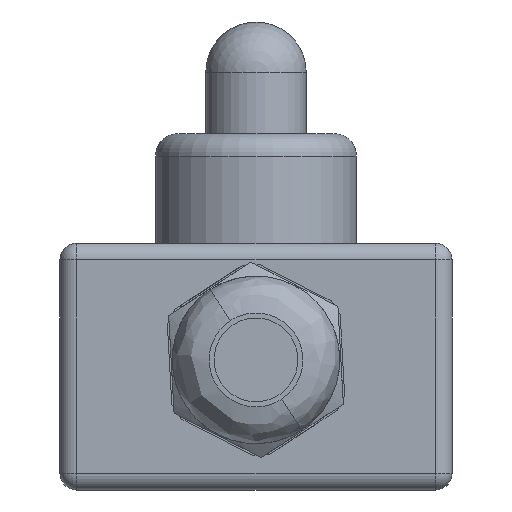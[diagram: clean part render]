
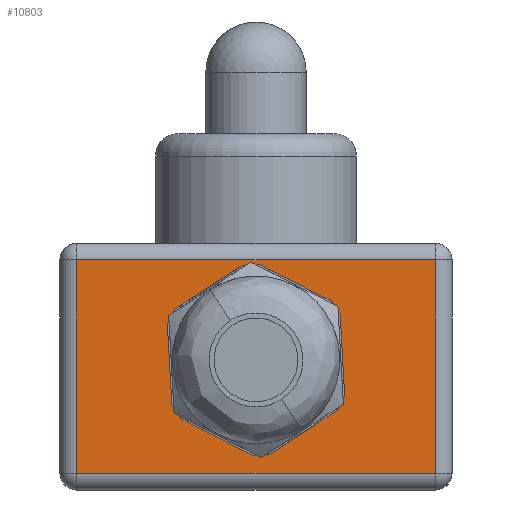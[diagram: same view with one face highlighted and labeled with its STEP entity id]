
A CAD part, front view. The second image highlights one B-rep face of the part: STEP entity #10803.
In plain terms, the highlighted planar face has unit normal (0, -1, 0).
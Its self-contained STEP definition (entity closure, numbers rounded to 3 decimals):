
#200 = LINE ( 'NONE', #10665, #9514 ) ;
#290 = VECTOR ( 'NONE', #5927, 1000. ) ;
#327 = VERTEX_POINT ( 'NONE', #5077 ) ;
#368 = LINE ( 'NONE', #441, #927 ) ;
#378 = CARTESIAN_POINT ( 'NONE',  ( -1.218, -35., 20.112 ) ) ;
#441 = CARTESIAN_POINT ( 'NONE',  ( 7.539, -35., 15.68 ) ) ;
#667 = EDGE_CURVE ( 'NONE', #2620, #12312, #2861, .T. ) ;
#927 = VECTOR ( 'NONE', #11972, 1000. ) ;
#951 = LINE ( 'NONE', #11417, #2487 ) ;
#1148 = ORIENTED_EDGE ( 'NONE', *, *, #14755, .T. ) ;
#1209 = EDGE_CURVE ( 'NONE', #7773, #11601, #1276, .T. ) ;
#1262 = VERTEX_POINT ( 'NONE', #3840 ) ;
#1276 = LINE ( 'NONE', #5906, #3349 ) ;
#1377 = ORIENTED_EDGE ( 'NONE', *, *, #10846, .T. ) ;
#1451 = CARTESIAN_POINT ( 'NONE',  ( 7.937, -35., 8.474 ) ) ;
#1549 = VECTOR ( 'NONE', #11899, 1000. ) ;
#1613 = CARTESIAN_POINT ( 'NONE',  ( -1.218, -35., 20.112 ) ) ;
#1619 = EDGE_CURVE ( 'NONE', #5683, #8008, #9735, .T. ) ;
#1710 = ORIENTED_EDGE ( 'NONE', *, *, #667, .T. ) ;
#1786 = VERTEX_POINT ( 'NONE', #14746 ) ;
#1997 = DIRECTION ( 'NONE',  ( -0.547, 0., 0.837 ) ) ;
#2173 = CARTESIAN_POINT ( 'NONE',  ( 16.05, -35., 20.6 ) ) ;
#2183 = EDGE_LOOP ( 'NONE', ( #11524, #13534, #12564, #14885, #5599, #8513, #4930, #9434, #1148, #13988, #1710, #2334 ) ) ;
#2206 = LINE ( 'NONE', #5403, #12349 ) ;
#2276 = VERTEX_POINT ( 'NONE', #9184 ) ;
#2334 = ORIENTED_EDGE ( 'NONE', *, *, #12265, .T. ) ;
#2354 = DIRECTION ( 'NONE',  ( 1., 0., 0. ) ) ;
#2487 = VECTOR ( 'NONE', #14758, 1000. ) ;
#2620 = VERTEX_POINT ( 'NONE', #6946 ) ;
#2803 = CARTESIAN_POINT ( 'NONE',  ( 1.218, -35., 3.188 ) ) ;
#2861 = LINE ( 'NONE', #9840, #1549 ) ;
#2948 = EDGE_CURVE ( 'NONE', #2276, #2620, #2996, .T. ) ;
#2996 = LINE ( 'NONE', #14527, #12454 ) ;
#3239 = CARTESIAN_POINT ( 'NONE',  ( -4.239, -35., 18.138 ) ) ;
#3349 = VECTOR ( 'NONE', #10531, 1000. ) ;
#3404 = CARTESIAN_POINT ( 'NONE',  ( 4.239, -35., 5.162 ) ) ;
#3469 = VECTOR ( 'NONE', #6661, 1000. ) ;
#3480 = DIRECTION ( 'NONE',  ( 0., 0., 1. ) ) ;
#3834 = DIRECTION ( 'NONE',  ( 0., 0., -1. ) ) ;
#3840 = CARTESIAN_POINT ( 'NONE',  ( 7.937, -35., 8.474 ) ) ;
#3912 = EDGE_CURVE ( 'NONE', #9947, #1786, #200, .T. ) ;
#4196 = EDGE_CURVE ( 'NONE', #6935, #7773, #951, .T. ) ;
#4341 = DIRECTION ( 'NONE',  ( 0.892, 0., -0.452 ) ) ;
#4541 = VECTOR ( 'NONE', #11976, 1000. ) ;
#4598 = EDGE_CURVE ( 'NONE', #13068, #1262, #368, .T. ) ;
#4930 = ORIENTED_EDGE ( 'NONE', *, *, #4196, .T. ) ;
#5077 = CARTESIAN_POINT ( 'NONE',  ( 6.719, -35., 16.936 ) ) ;
#5342 = EDGE_LOOP ( 'NONE', ( #6685, #11030, #6952, #1377 ) ) ;
#5403 = CARTESIAN_POINT ( 'NONE',  ( 0.28, -35., 20.194 ) ) ;
#5518 = FACE_OUTER_BOUND ( 'NONE', #5342, .T. ) ;
#5599 = ORIENTED_EDGE ( 'NONE', *, *, #8471, .T. ) ;
#5683 = VERTEX_POINT ( 'NONE', #7939 ) ;
#5802 = CARTESIAN_POINT ( 'NONE',  ( -6.719, -35., 6.364 ) ) ;
#5852 = CARTESIAN_POINT ( 'NONE',  ( -17.55, -35., 1.5 ) ) ;
#5906 = CARTESIAN_POINT ( 'NONE',  ( -0.28, -35., 3.106 ) ) ;
#5927 = DIRECTION ( 'NONE',  ( 0.998, 0., 0.055 ) ) ;
#6099 = DIRECTION ( 'NONE',  ( 0., 0., 1. ) ) ;
#6352 = LINE ( 'NONE', #9692, #4541 ) ;
#6356 = AXIS2_PLACEMENT_3D ( 'NONE', #11593, #13871, #3480 ) ;
#6661 = DIRECTION ( 'NONE',  ( -0.837, 0., -0.547 ) ) ;
#6685 = ORIENTED_EDGE ( 'NONE', *, *, #3912, .T. ) ;
#6719 = EDGE_CURVE ( 'NONE', #6915, #327, #2206, .T. ) ;
#6915 = VERTEX_POINT ( 'NONE', #12768 ) ;
#6935 = VERTEX_POINT ( 'NONE', #2803 ) ;
#6937 = LINE ( 'NONE', #5802, #14580 ) ;
#6946 = CARTESIAN_POINT ( 'NONE',  ( -7.937, -35., 14.826 ) ) ;
#6952 = ORIENTED_EDGE ( 'NONE', *, *, #1619, .T. ) ;
#7085 = VECTOR ( 'NONE', #10290, 1000. ) ;
#7338 = CARTESIAN_POINT ( 'NONE',  ( 7.539, -35., 15.68 ) ) ;
#7580 = VECTOR ( 'NONE', #2354, 1000. ) ;
#7773 = VERTEX_POINT ( 'NONE', #14286 ) ;
#7939 = CARTESIAN_POINT ( 'NONE',  ( 16.05, -35., 1.5 ) ) ;
#8008 = VERTEX_POINT ( 'NONE', #2173 ) ;
#8057 = LINE ( 'NONE', #5852, #7580 ) ;
#8436 = LINE ( 'NONE', #1451, #12286 ) ;
#8471 = EDGE_CURVE ( 'NONE', #1262, #9796, #8436, .T. ) ;
#8513 = ORIENTED_EDGE ( 'NONE', *, *, #10668, .T. ) ;
#9080 = EDGE_CURVE ( 'NONE', #327, #13068, #6352, .T. ) ;
#9184 = CARTESIAN_POINT ( 'NONE',  ( -7.539, -35., 7.62 ) ) ;
#9241 = FACE_BOUND ( 'NONE', #2183, .T. ) ;
#9434 = ORIENTED_EDGE ( 'NONE', *, *, #1209, .T. ) ;
#9514 = VECTOR ( 'NONE', #3834, 1000. ) ;
#9527 = VECTOR ( 'NONE', #6099, 1000. ) ;
#9692 = CARTESIAN_POINT ( 'NONE',  ( 6.719, -35., 16.936 ) ) ;
#9735 = LINE ( 'NONE', #12093, #9527 ) ;
#9796 = VERTEX_POINT ( 'NONE', #13008 ) ;
#9818 = DIRECTION ( 'NONE',  ( -0.055, 0., 0.998 ) ) ;
#9840 = CARTESIAN_POINT ( 'NONE',  ( -7.937, -35., 14.826 ) ) ;
#9871 = VERTEX_POINT ( 'NONE', #1613 ) ;
#9947 = VERTEX_POINT ( 'NONE', #11102 ) ;
#10150 = PLANE ( 'NONE',  #6356 ) ;
#10290 = DIRECTION ( 'NONE',  ( 0.837, 0., 0.547 ) ) ;
#10531 = DIRECTION ( 'NONE',  ( -0.892, 0., 0.452 ) ) ;
#10532 = CARTESIAN_POINT ( 'NONE',  ( -17.55, -35., 20.6 ) ) ;
#10635 = DIRECTION ( 'NONE',  ( -0.452, 0., -0.892 ) ) ;
#10665 = CARTESIAN_POINT ( 'NONE',  ( -16.05, -35., 22.1 ) ) ;
#10668 = EDGE_CURVE ( 'NONE', #9796, #6935, #14780, .T. ) ;
#10803 = ADVANCED_FACE ( 'NONE', ( #9241, #5518 ), #10150, .F. ) ;
#10846 = EDGE_CURVE ( 'NONE', #8008, #9947, #13098, .T. ) ;
#11030 = ORIENTED_EDGE ( 'NONE', *, *, #11473, .T. ) ;
#11102 = CARTESIAN_POINT ( 'NONE',  ( -16.05, -35., 20.6 ) ) ;
#11417 = CARTESIAN_POINT ( 'NONE',  ( 1.218, -35., 3.188 ) ) ;
#11473 = EDGE_CURVE ( 'NONE', #1786, #5683, #8057, .T. ) ;
#11524 = ORIENTED_EDGE ( 'NONE', *, *, #11661, .T. ) ;
#11580 = CARTESIAN_POINT ( 'NONE',  ( -7.26, -35., 16.164 ) ) ;
#11593 = CARTESIAN_POINT ( 'NONE',  ( -17.55, -35., 22.1 ) ) ;
#11601 = VERTEX_POINT ( 'NONE', #13893 ) ;
#11661 = EDGE_CURVE ( 'NONE', #9871, #6915, #14185, .T. ) ;
#11899 = DIRECTION ( 'NONE',  ( 0.452, 0., 0.892 ) ) ;
#11972 = DIRECTION ( 'NONE',  ( 0.055, 0., -0.998 ) ) ;
#11976 = DIRECTION ( 'NONE',  ( 0.547, 0., -0.837 ) ) ;
#12093 = CARTESIAN_POINT ( 'NONE',  ( 16.05, -35., 22.1 ) ) ;
#12265 = EDGE_CURVE ( 'NONE', #12312, #9871, #12647, .T. ) ;
#12286 = VECTOR ( 'NONE', #10635, 1000. ) ;
#12312 = VERTEX_POINT ( 'NONE', #11580 ) ;
#12349 = VECTOR ( 'NONE', #4341, 1000. ) ;
#12454 = VECTOR ( 'NONE', #9818, 1000. ) ;
#12564 = ORIENTED_EDGE ( 'NONE', *, *, #9080, .T. ) ;
#12647 = LINE ( 'NONE', #3239, #7085 ) ;
#12768 = CARTESIAN_POINT ( 'NONE',  ( 0.28, -35., 20.194 ) ) ;
#13008 = CARTESIAN_POINT ( 'NONE',  ( 7.26, -35., 7.136 ) ) ;
#13068 = VERTEX_POINT ( 'NONE', #7338 ) ;
#13098 = LINE ( 'NONE', #10532, #13152 ) ;
#13152 = VECTOR ( 'NONE', #14092, 1000. ) ;
#13534 = ORIENTED_EDGE ( 'NONE', *, *, #6719, .T. ) ;
#13871 = DIRECTION ( 'NONE',  ( 0., 1., 0. ) ) ;
#13893 = CARTESIAN_POINT ( 'NONE',  ( -6.719, -35., 6.364 ) ) ;
#13988 = ORIENTED_EDGE ( 'NONE', *, *, #2948, .T. ) ;
#14092 = DIRECTION ( 'NONE',  ( -1., 0., 0. ) ) ;
#14185 = LINE ( 'NONE', #378, #290 ) ;
#14286 = CARTESIAN_POINT ( 'NONE',  ( -0.28, -35., 3.106 ) ) ;
#14527 = CARTESIAN_POINT ( 'NONE',  ( -7.539, -35., 7.62 ) ) ;
#14580 = VECTOR ( 'NONE', #1997, 1000. ) ;
#14746 = CARTESIAN_POINT ( 'NONE',  ( -16.05, -35., 1.5 ) ) ;
#14755 = EDGE_CURVE ( 'NONE', #11601, #2276, #6937, .T. ) ;
#14758 = DIRECTION ( 'NONE',  ( -0.998, 0., -0.055 ) ) ;
#14780 = LINE ( 'NONE', #3404, #3469 ) ;
#14885 = ORIENTED_EDGE ( 'NONE', *, *, #4598, .T. ) ;
